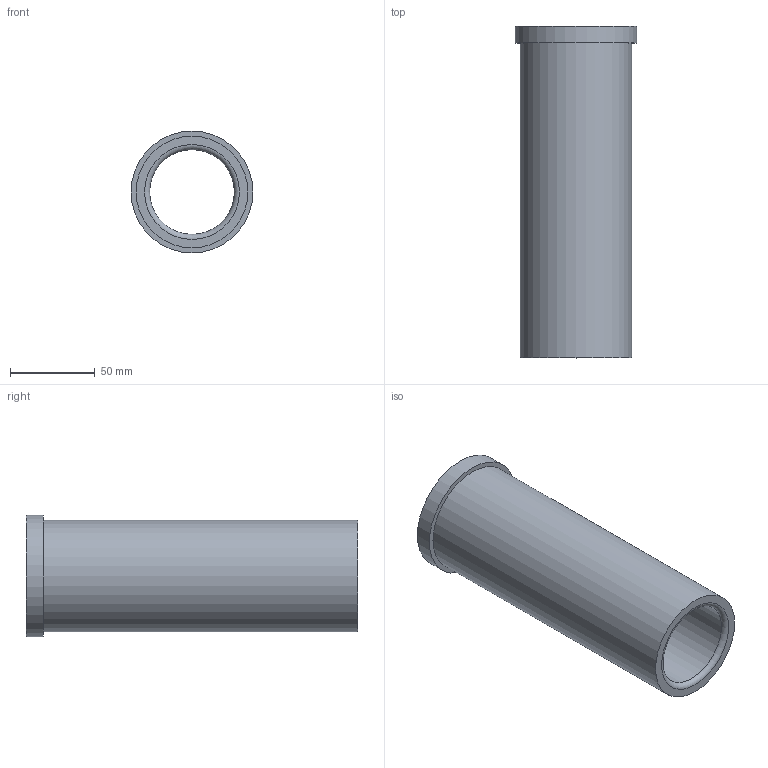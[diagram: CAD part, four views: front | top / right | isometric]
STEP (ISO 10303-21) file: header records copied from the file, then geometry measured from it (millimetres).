
FILE_DESCRIPTION(/* description */ ('STEP AP214'),/* implementation_level */ '2;1');
FILE_NAME(/* name */ '03_12_17871',/* time_stamp */ '2023-06-15T11:35:48+02:00',/* author */ ('License CC BY-ND 4.0'),/* organization */ ('CADENAS'),/* preprocessor_version */ 'ST-DEVELOPER v19.3',/* originating_system */ 'PARTsolutions',/* authorisation */ ' ');
FILE_SCHEMA (('AUTOMOTIVE_DESIGN {1 0 10303 214 3 1 1}'));
Length unit declared in the file: millimetre
Products named in the file (1): VA_Bushing_17871
Bounding box: 72 x 196 x 72 mm (x, y, z)
Volume: 289727.1 mm3; surface area: 75506.7 mm2
Topology: 1 solids, 1 shells, 10 faces, 16 edges, 10 vertices
Faces by surface type: cylinder 4, plane 4, torus 2
Full cylindrical faces by diameter (mm): 50 x1, 50.6 x1, 66 x1, 72 x1
Entity records: 302 total; most frequent: DIRECTION 42, CARTESIAN_POINT 31, AXIS2_PLACEMENT_3D 21, ORIENTED_EDGE 20, EDGE_LOOP 20, FACE_BOUND 20, EDGE_CURVE 10, VERTEX_POINT 10
